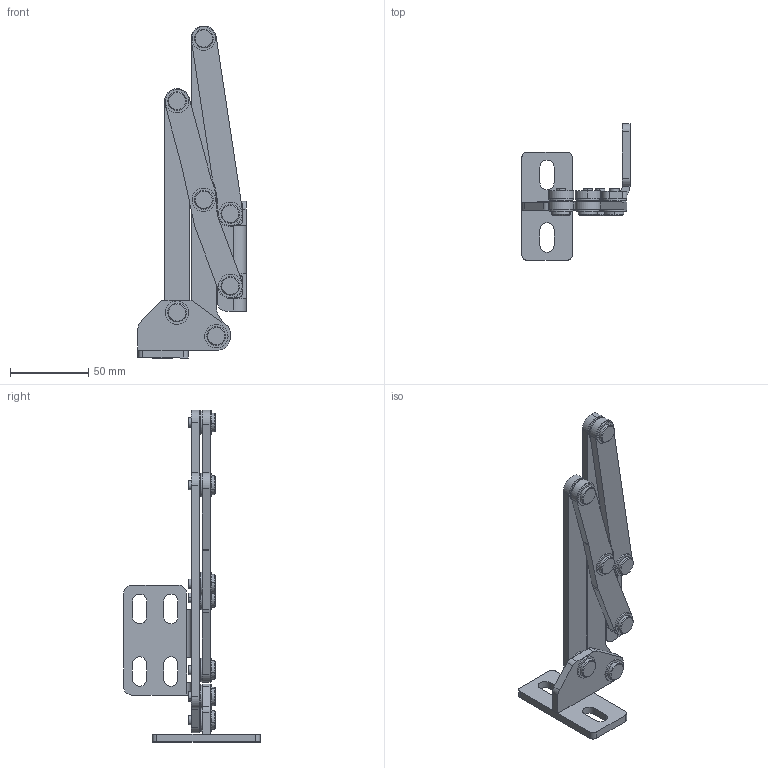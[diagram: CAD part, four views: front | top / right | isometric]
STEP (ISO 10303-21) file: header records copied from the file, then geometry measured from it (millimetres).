
FILE_DESCRIPTION (( 'STEP AP203' ), '1' );
FILE_NAME ('3.ST305.002.STEP', '2022-09-08T08:38:13', ( '' ), ( '' ), 'SwSTEP 2.0', 'SolidWorks 2021', '' );
FILE_SCHEMA (( 'CONFIG_CONTROL_DESIGN' ));
Length unit declared in the file: millimetre
Products named in the file (13): P.002644_00-00; 5.U07.182.07_A; 01-M-05-05-20307_00-00; A.002585_00-00; 01-M-05-05-20304_00-00; 01-M-05-05-20401_00-00; GFM-XXYY-ZZ_0810-065; 3.ST305.002; 01-M-05-05-20301_00-00; 5.U07.182.07_B; 01-M-05-05-20306_00-00; 01-M-05-05-20305_00-00; 01-M-05-05-20302_00-00
Assembly tree (36 placements, depth 3):
  3.ST305.002
    A.002585_00-00
      01-M-05-05-20301_00-00
      01-M-05-05-20302_00-00
    01-M-05-05-20304_00-00
    01-M-05-05-20305_00-00
    01-M-05-05-20306_00-00
    01-M-05-05-20307_00-00
    01-M-05-05-20401_00-00
    P.002644_00-00  x7
    5.U07.182.07_A  x7
    5.U07.182.07_B  x7
    GFM-XXYY-ZZ_0810-065  x7
Bounding box: 69 x 87 x 212 mm (x, y, z)
Volume: 88730.2 mm3; surface area: 58204 mm2
Topology: 35 solids, 35 shells, 432 faces, 981 edges, 638 vertices
Faces by surface type: cylinder 236, plane 154, cone 28, torus 14
Entity records: 8804 total; most frequent: DIRECTION 1289, CARTESIAN_POINT 1161, ORIENTED_EDGE 1098, EDGE_CURVE 549, AXIS2_PLACEMENT_3D 490, VERTEX_POINT 362, VECTOR 309, LINE 309
